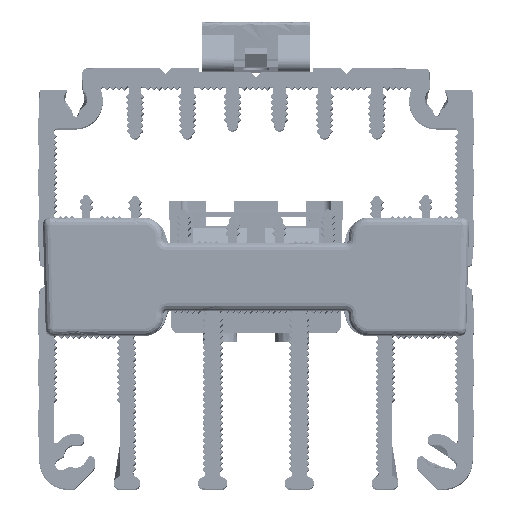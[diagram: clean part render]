
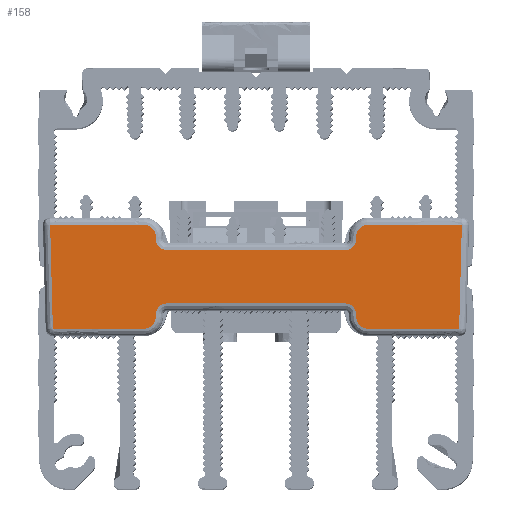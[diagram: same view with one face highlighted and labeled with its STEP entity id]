
A CAD part, top view. The second image highlights one B-rep face of the part: STEP entity #158.
In plain terms, the highlighted planar face has unit normal (0, 0, 1).
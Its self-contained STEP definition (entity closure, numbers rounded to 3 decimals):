
#158=ADVANCED_FACE($,(#1501),#19389,.T.);
#1501=FACE_OUTER_BOUND($,#2850,.T.);
#2850=EDGE_LOOP($,(#4510,#4511,#4512,#4513));
#4510=ORIENTED_EDGE($,*,*,#12019,.F.);
#4511=ORIENTED_EDGE($,*,*,#12021,.F.);
#4512=ORIENTED_EDGE($,*,*,#12020,.F.);
#4513=ORIENTED_EDGE($,*,*,#12018,.F.);
#12018=EDGE_CURVE($,#15793,#15794,#19640,.T.);
#12019=EDGE_CURVE($,#15795,#15793,#19641,.T.);
#12020=EDGE_CURVE($,#15794,#15796,#19642,.T.);
#12021=EDGE_CURVE($,#15796,#15795,#19643,.T.);
#15793=VERTEX_POINT($,#26641);
#15794=VERTEX_POINT($,#26642);
#15795=VERTEX_POINT($,#26643);
#15796=VERTEX_POINT($,#26644);
#19389=PLANE($,#23497);
#19640=(
BOUNDED_CURVE()
B_SPLINE_CURVE(3,(#25838,#25839,#25840,#25841,#25842,#25843,#25844,#25845,
#25846,#25847,#25848,#25849,#25850,#25851,#25852,#25853,#25854,#25855,#25856,
#25857,#25858,#25859,#25860,#25861,#25862,#25863,#25864,#25865,#25866,#25867,
#25868,#25869,#25870,#25871,#25872,#25873,#25874,#25875,#25876,#25877),.UNSPECIFIED.,
.F.,.F.)
B_SPLINE_CURVE_WITH_KNOTS((4,3,1,1,1,3,3,1,1,1,3,3,1,1,1,3,3,1,1,1,3,4),
(1.027,13.968,14.588,15.259,15.934,
16.639,16.938,17.508,18.116,18.686,
19.294,44.018,44.588,45.196,45.766,
46.374,46.673,47.293,47.964,48.639,
49.343,62.285),.UNSPECIFIED.)
CURVE()
GEOMETRIC_REPRESENTATION_ITEM()
RATIONAL_B_SPLINE_CURVE((1.,1.,1.,1.,1.,1.,1.,1.,1.,1.,1.,1.,1.,1.,1.,1.,
1.,1.,1.,1.,1.,1.,1.,1.,1.,1.,1.,1.,1.,1.,1.,1.,1.,1.,1.,1.,1.,1.,1.,1.))
REPRESENTATION_ITEM($)
);
#19641=(
BOUNDED_CURVE()
B_SPLINE_CURVE(3,(#25878,#25879,#25880,#25881),.UNSPECIFIED.,.F.,.F.)
B_SPLINE_CURVE_WITH_KNOTS((4,4),(0.974,15.377),.UNSPECIFIED.)
CURVE()
GEOMETRIC_REPRESENTATION_ITEM()
RATIONAL_B_SPLINE_CURVE((1.,1.,1.,1.))
REPRESENTATION_ITEM($)
);
#19642=(
BOUNDED_CURVE()
B_SPLINE_CURVE(3,(#25882,#25883,#25884,#25885),.UNSPECIFIED.,.F.,.F.)
B_SPLINE_CURVE_WITH_KNOTS((4,4),(1.027,15.43),.UNSPECIFIED.)
CURVE()
GEOMETRIC_REPRESENTATION_ITEM()
RATIONAL_B_SPLINE_CURVE((1.,1.,1.,1.))
REPRESENTATION_ITEM($)
);
#19643=(
BOUNDED_CURVE()
B_SPLINE_CURVE(3,(#25886,#25887,#25888,#25889,#25890,#25891,#25892,#25893,
#25894,#25895,#25896,#25897,#25898,#25899,#25900,#25901,#25902,#25903,#25904,
#25905,#25906,#25907,#25908,#25909,#25910,#25911,#25912,#25913,#25914,#25915,
#25916,#25917,#25918,#25919,#25920,#25921,#25922,#25923,#25924,#25925,#25926),
.UNSPECIFIED.,.F.,.F.)
B_SPLINE_CURVE_WITH_KNOTS((4,3,1,1,1,3,3,1,1,1,1,3,3,1,1,1,3,3,1,1,1,3,4),
(0.974,13.539,14.159,14.83,15.505,
16.209,16.508,17.079,17.695,18.275,
18.564,18.864,43.588,44.159,44.766,
45.337,45.944,46.244,46.863,47.535,
48.209,48.914,61.479),.UNSPECIFIED.)
CURVE()
GEOMETRIC_REPRESENTATION_ITEM()
RATIONAL_B_SPLINE_CURVE((1.,1.,1.,1.,1.,1.,1.,1.,1.,1.,1.,1.,1.,1.,1.,1.,
1.,1.,1.,1.,1.,1.,1.,1.,1.,1.,1.,1.,1.,1.,1.,1.,1.,1.,1.,1.,1.,1.,1.,1.,
1.))
REPRESENTATION_ITEM($)
);
#23497=AXIS2_PLACEMENT_3D($,#26223,#23675,$);
#23675=DIRECTION($,(0.,0.,1.));
#25838=CARTESIAN_POINT($,(723.231,247.553,37.5));
#25839=CARTESIAN_POINT($,(727.545,247.553,37.5));
#25840=CARTESIAN_POINT($,(731.859,247.553,37.5));
#25841=CARTESIAN_POINT($,(736.173,247.553,37.5));
#25842=CARTESIAN_POINT($,(736.38,247.553,37.5));
#25843=CARTESIAN_POINT($,(736.81,247.474,37.5));
#25844=CARTESIAN_POINT($,(737.375,247.118,37.5));
#25845=CARTESIAN_POINT($,(737.776,246.547,37.5));
#25846=CARTESIAN_POINT($,(737.873,246.088,37.5));
#25847=CARTESIAN_POINT($,(737.873,245.853,37.5));
#25848=CARTESIAN_POINT($,(737.873,245.753,37.5));
#25849=CARTESIAN_POINT($,(737.873,245.654,37.5));
#25850=CARTESIAN_POINT($,(737.873,245.554,37.5));
#25851=CARTESIAN_POINT($,(737.873,245.364,37.5));
#25852=CARTESIAN_POINT($,(737.949,244.971,37.5));
#25853=CARTESIAN_POINT($,(738.276,244.474,37.5));
#25854=CARTESIAN_POINT($,(738.778,244.135,37.5));
#25855=CARTESIAN_POINT($,(739.17,244.054,37.5));
#25856=CARTESIAN_POINT($,(739.373,244.054,37.5));
#25857=CARTESIAN_POINT($,(747.614,244.054,37.5));
#25858=CARTESIAN_POINT($,(755.856,244.054,37.5));
#25859=CARTESIAN_POINT($,(764.097,244.054,37.5));
#25860=CARTESIAN_POINT($,(764.287,244.054,37.5));
#25861=CARTESIAN_POINT($,(764.68,244.129,37.5));
#25862=CARTESIAN_POINT($,(765.176,244.457,37.5));
#25863=CARTESIAN_POINT($,(765.516,244.959,37.5));
#25864=CARTESIAN_POINT($,(765.597,245.351,37.5));
#25865=CARTESIAN_POINT($,(765.597,245.554,37.5));
#25866=CARTESIAN_POINT($,(765.597,245.654,37.5));
#25867=CARTESIAN_POINT($,(765.597,245.753,37.5));
#25868=CARTESIAN_POINT($,(765.597,245.853,37.5));
#25869=CARTESIAN_POINT($,(765.597,246.06,37.5));
#25870=CARTESIAN_POINT($,(765.676,246.49,37.5));
#25871=CARTESIAN_POINT($,(766.032,247.055,37.5));
#25872=CARTESIAN_POINT($,(766.602,247.456,37.5));
#25873=CARTESIAN_POINT($,(767.062,247.553,37.5));
#25874=CARTESIAN_POINT($,(767.297,247.553,37.5));
#25875=CARTESIAN_POINT($,(771.611,247.553,37.5));
#25876=CARTESIAN_POINT($,(775.925,247.553,37.5));
#25877=CARTESIAN_POINT($,(780.239,247.553,37.5));
#25878=CARTESIAN_POINT($,(723.608,233.155,37.5));
#25879=CARTESIAN_POINT($,(723.483,237.954,37.5));
#25880=CARTESIAN_POINT($,(723.357,242.754,37.5));
#25881=CARTESIAN_POINT($,(723.231,247.553,37.5));
#25882=CARTESIAN_POINT($,(780.239,247.553,37.5));
#25883=CARTESIAN_POINT($,(780.113,242.754,37.5));
#25884=CARTESIAN_POINT($,(779.987,237.954,37.5));
#25885=CARTESIAN_POINT($,(779.862,233.155,37.5));
#25886=CARTESIAN_POINT($,(779.862,233.155,37.5));
#25887=CARTESIAN_POINT($,(775.673,233.155,37.5));
#25888=CARTESIAN_POINT($,(771.485,233.155,37.5));
#25889=CARTESIAN_POINT($,(767.297,233.155,37.5));
#25890=CARTESIAN_POINT($,(767.09,233.155,37.5));
#25891=CARTESIAN_POINT($,(766.66,233.234,37.5));
#25892=CARTESIAN_POINT($,(766.094,233.59,37.5));
#25893=CARTESIAN_POINT($,(765.694,234.16,37.5));
#25894=CARTESIAN_POINT($,(765.597,234.62,37.5));
#25895=CARTESIAN_POINT($,(765.597,234.855,37.5));
#25896=CARTESIAN_POINT($,(765.597,234.954,37.5));
#25897=CARTESIAN_POINT($,(765.597,235.054,37.5));
#25898=CARTESIAN_POINT($,(765.597,235.154,37.5));
#25899=CARTESIAN_POINT($,(765.597,235.344,37.5));
#25900=CARTESIAN_POINT($,(765.521,235.74,37.5));
#25901=CARTESIAN_POINT($,(765.188,236.241,37.5));
#25902=CARTESIAN_POINT($,(764.768,236.52,37.5));
#25903=CARTESIAN_POINT($,(764.393,236.634,37.5));
#25904=CARTESIAN_POINT($,(764.197,236.654,37.5));
#25905=CARTESIAN_POINT($,(764.097,236.654,37.5));
#25906=CARTESIAN_POINT($,(755.856,236.654,37.5));
#25907=CARTESIAN_POINT($,(747.614,236.654,37.5));
#25908=CARTESIAN_POINT($,(739.373,236.654,37.5));
#25909=CARTESIAN_POINT($,(739.183,236.654,37.5));
#25910=CARTESIAN_POINT($,(738.79,236.578,37.5));
#25911=CARTESIAN_POINT($,(738.294,236.251,37.5));
#25912=CARTESIAN_POINT($,(737.954,235.749,37.5));
#25913=CARTESIAN_POINT($,(737.873,235.356,37.5));
#25914=CARTESIAN_POINT($,(737.873,235.154,37.5));
#25915=CARTESIAN_POINT($,(737.873,235.054,37.5));
#25916=CARTESIAN_POINT($,(737.873,234.954,37.5));
#25917=CARTESIAN_POINT($,(737.873,234.855,37.5));
#25918=CARTESIAN_POINT($,(737.873,234.648,37.5));
#25919=CARTESIAN_POINT($,(737.794,234.218,37.5));
#25920=CARTESIAN_POINT($,(737.438,233.652,37.5));
#25921=CARTESIAN_POINT($,(736.867,233.251,37.5));
#25922=CARTESIAN_POINT($,(736.408,233.155,37.5));
#25923=CARTESIAN_POINT($,(736.173,233.155,37.5));
#25924=CARTESIAN_POINT($,(731.985,233.155,37.5));
#25925=CARTESIAN_POINT($,(727.797,233.155,37.5));
#25926=CARTESIAN_POINT($,(723.608,233.155,37.5));
#26223=CARTESIAN_POINT($,(722.661,233.011,37.5));
#26641=CARTESIAN_POINT($,(723.231,247.553,37.5));
#26642=CARTESIAN_POINT($,(780.239,247.553,37.5));
#26643=CARTESIAN_POINT($,(723.608,233.155,37.5));
#26644=CARTESIAN_POINT($,(779.862,233.155,37.5));
